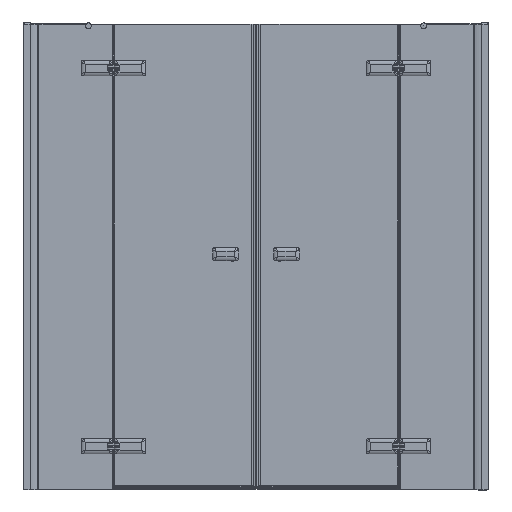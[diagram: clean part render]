
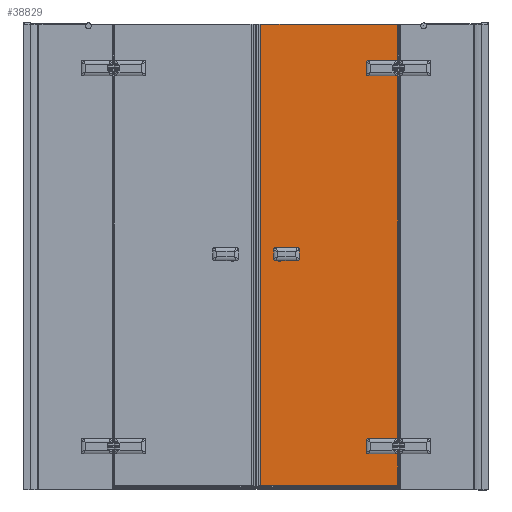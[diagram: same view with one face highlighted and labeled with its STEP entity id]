
A CAD part, front view. The second image highlights one B-rep face of the part: STEP entity #38829.
In plain terms, the highlighted planar face has unit normal (0, -1, 0).
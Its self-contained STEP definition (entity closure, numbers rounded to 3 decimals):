
#1372=PLANE($,#42161);
#1800=FACE_BOUND($,#12807,.T.);
#1801=FACE_BOUND($,#12808,.T.);
#2912=LINE($,#86467,#6034);
#2916=LINE($,#86479,#6038);
#2920=LINE($,#86490,#6042);
#3612=LINE($,#89770,#6734);
#3616=LINE($,#89782,#6738);
#3620=LINE($,#89793,#6742);
#4763=LINE($,#95279,#7885);
#4778=LINE($,#95324,#7900);
#4779=LINE($,#95326,#7901);
#4780=LINE($,#95328,#7902);
#4781=LINE($,#95330,#7903);
#4782=LINE($,#95331,#7904);
#6034=VECTOR($,#45944,96.);
#6038=VECTOR($,#45956,42.);
#6042=VECTOR($,#45968,96.);
#6734=VECTOR($,#47948,96.);
#6738=VECTOR($,#47960,42.);
#6742=VECTOR($,#47972,96.);
#7885=VECTOR($,#51323,127.43);
#7900=VECTOR($,#51380,1254.861);
#7901=VECTOR($,#51381,476.747);
#7902=VECTOR($,#51382,1585.4);
#7903=VECTOR($,#51383,476.747);
#7904=VECTOR($,#51384,112.83);
#10500=FACE_OUTER_BOUND($,#12806,.T.);
#12806=EDGE_LOOP($,(#33280,#33281,#33282,#33283,#33284,#33285,#33286,#33287,
#33288,#33289,#33290,#33291,#33292,#33293,#33294,#33295,#33296,#33297,#33298,
#33299));
#12807=EDGE_LOOP($,(#33300));
#12808=EDGE_LOOP($,(#33301));
#14379=CIRCLE($,#40298,5.);
#14382=CIRCLE($,#40302,5.);
#14419=CIRCLE($,#40378,5.);
#14421=CIRCLE($,#40382,5.);
#14631=CIRCLE($,#40952,5.);
#14634=CIRCLE($,#40956,5.);
#14670=CIRCLE($,#41030,5.);
#14672=CIRCLE($,#41034,5.);
#15104=CIRCLE($,#42162,5.5);
#15105=CIRCLE($,#42163,5.5);
#16507=VERTEX_POINT($,#86121);
#16508=VERTEX_POINT($,#86130);
#16511=VERTEX_POINT($,#86137);
#16514=VERTEX_POINT($,#86150);
#16627=VERTEX_POINT($,#86466);
#16629=VERTEX_POINT($,#86472);
#16631=VERTEX_POINT($,#86478);
#16633=VERTEX_POINT($,#86484);
#17187=VERTEX_POINT($,#89436);
#17188=VERTEX_POINT($,#89445);
#17191=VERTEX_POINT($,#89452);
#17194=VERTEX_POINT($,#89465);
#17302=VERTEX_POINT($,#89769);
#17304=VERTEX_POINT($,#89775);
#17306=VERTEX_POINT($,#89781);
#17308=VERTEX_POINT($,#89787);
#18423=VERTEX_POINT($,#95277);
#18433=VERTEX_POINT($,#95325);
#18434=VERTEX_POINT($,#95327);
#18435=VERTEX_POINT($,#95329);
#18436=VERTEX_POINT($,#95332);
#18437=VERTEX_POINT($,#95334);
#20505=EDGE_CURVE($,#16508,#16507,#14379,.T.);
#20512=EDGE_CURVE($,#16511,#16514,#14382,.T.);
#20668=EDGE_CURVE($,#16514,#16627,#2912,.T.);
#20671=EDGE_CURVE($,#16627,#16629,#14419,.T.);
#20674=EDGE_CURVE($,#16629,#16631,#2916,.T.);
#20677=EDGE_CURVE($,#16631,#16633,#14421,.T.);
#20680=EDGE_CURVE($,#16633,#16508,#2920,.T.);
#21578=EDGE_CURVE($,#17188,#17187,#14631,.T.);
#21585=EDGE_CURVE($,#17191,#17194,#14634,.T.);
#21735=EDGE_CURVE($,#17194,#17302,#3612,.T.);
#21738=EDGE_CURVE($,#17302,#17304,#14670,.T.);
#21741=EDGE_CURVE($,#17304,#17306,#3616,.T.);
#21744=EDGE_CURVE($,#17306,#17308,#14672,.T.);
#21747=EDGE_CURVE($,#17308,#17188,#3620,.T.);
#23510=EDGE_CURVE($,#17187,#18423,#4763,.T.);
#23533=EDGE_CURVE($,#16507,#17191,#4778,.T.);
#23534=EDGE_CURVE($,#18433,#18423,#4779,.T.);
#23535=EDGE_CURVE($,#18434,#18433,#4780,.T.);
#23536=EDGE_CURVE($,#18434,#18435,#4781,.T.);
#23537=EDGE_CURVE($,#18435,#16511,#4782,.T.);
#23538=EDGE_CURVE($,#18436,#18436,#15104,.T.);
#23539=EDGE_CURVE($,#18437,#18437,#15105,.T.);
#33280=ORIENTED_EDGE($,*,*,#20505,.T.);
#33281=ORIENTED_EDGE($,*,*,#23533,.T.);
#33282=ORIENTED_EDGE($,*,*,#21585,.T.);
#33283=ORIENTED_EDGE($,*,*,#21735,.T.);
#33284=ORIENTED_EDGE($,*,*,#21738,.T.);
#33285=ORIENTED_EDGE($,*,*,#21741,.T.);
#33286=ORIENTED_EDGE($,*,*,#21744,.T.);
#33287=ORIENTED_EDGE($,*,*,#21747,.T.);
#33288=ORIENTED_EDGE($,*,*,#21578,.T.);
#33289=ORIENTED_EDGE($,*,*,#23510,.T.);
#33290=ORIENTED_EDGE($,*,*,#23534,.F.);
#33291=ORIENTED_EDGE($,*,*,#23535,.F.);
#33292=ORIENTED_EDGE($,*,*,#23536,.T.);
#33293=ORIENTED_EDGE($,*,*,#23537,.T.);
#33294=ORIENTED_EDGE($,*,*,#20512,.T.);
#33295=ORIENTED_EDGE($,*,*,#20668,.T.);
#33296=ORIENTED_EDGE($,*,*,#20671,.T.);
#33297=ORIENTED_EDGE($,*,*,#20674,.T.);
#33298=ORIENTED_EDGE($,*,*,#20677,.T.);
#33299=ORIENTED_EDGE($,*,*,#20680,.T.);
#33300=ORIENTED_EDGE($,*,*,#23538,.T.);
#33301=ORIENTED_EDGE($,*,*,#23539,.T.);
#38829=ADVANCED_FACE($,(#10500,#1800,#1801),#1372,.T.);
#40298=AXIS2_PLACEMENT_3D($,#86131,#45668,#45669);
#40302=AXIS2_PLACEMENT_3D($,#86152,#45679,#45680);
#40378=AXIS2_PLACEMENT_3D($,#86473,#45949,#45950);
#40382=AXIS2_PLACEMENT_3D($,#86485,#45961,#45962);
#40952=AXIS2_PLACEMENT_3D($,#89446,#47681,#47682);
#40956=AXIS2_PLACEMENT_3D($,#89467,#47692,#47693);
#41030=AXIS2_PLACEMENT_3D($,#89776,#47953,#47954);
#41034=AXIS2_PLACEMENT_3D($,#89788,#47965,#47966);
#42161=AXIS2_PLACEMENT_3D($,#95323,#51378,#51379);
#42162=AXIS2_PLACEMENT_3D($,#95333,#51385,#51386);
#42163=AXIS2_PLACEMENT_3D($,#95335,#51387,#51388);
#45668=DIRECTION('center_axis',(0.,1.,0.));
#45669=DIRECTION('ref_axis',(-1.,0.,0.));
#45679=DIRECTION('center_axis',(0.,1.,0.));
#45680=DIRECTION('ref_axis',(0.,0.,
1.));
#45944=DIRECTION($,(-1.,0.,0.));
#45949=DIRECTION('center_axis',(0.,1.,0.));
#45950=DIRECTION('ref_axis',(1.,0.,0.));
#45956=DIRECTION($,(0.,0.,1.));
#45961=DIRECTION('center_axis',(0.,1.,0.));
#45962=DIRECTION('ref_axis',(0.,0.,
-1.));
#45968=DIRECTION($,(1.,0.,0.));
#47681=DIRECTION('center_axis',(0.,1.,0.));
#47682=DIRECTION('ref_axis',(-1.,0.,0.));
#47692=DIRECTION('center_axis',(0.,1.,0.));
#47693=DIRECTION('ref_axis',(0.,0.,
1.));
#47948=DIRECTION($,(-1.,0.,0.));
#47953=DIRECTION('center_axis',(0.,1.,0.));
#47954=DIRECTION('ref_axis',(1.,0.,0.));
#47960=DIRECTION($,(0.,0.,1.));
#47965=DIRECTION('center_axis',(0.,1.,0.));
#47966=DIRECTION('ref_axis',(0.,0.,
-1.));
#47972=DIRECTION($,(1.,0.,0.));
#51323=DIRECTION($,(0.,0.,1.));
#51378=DIRECTION('center_axis',(0.,-1.,0.));
#51379=DIRECTION('ref_axis',(1.,0.,0.));
#51380=DIRECTION($,(0.,0.,1.));
#51381=DIRECTION($,(1.,0.,0.));
#51382=DIRECTION($,(0.,0.,1.));
#51383=DIRECTION($,(1.,0.,0.));
#51384=DIRECTION($,(0.,0.,1.));
#51385=DIRECTION('center_axis',(0.,1.,0.));
#51386=DIRECTION('ref_axis',(1.,0.,0.));
#51387=DIRECTION('center_axis',(0.,1.,0.));
#51388=DIRECTION('ref_axis',(1.,0.,0.));
#86121=CARTESIAN_POINT('',(1586.099,65.956,198.514));
#86130=CARTESIAN_POINT('',(1581.352,65.956,201.944));
#86131=CARTESIAN_POINT('Origin',(1581.352,65.956,196.944));
#86137=CARTESIAN_POINT('',(1586.099,65.956,153.375));
#86150=CARTESIAN_POINT('',(1581.352,65.956,149.944));
#86152=CARTESIAN_POINT('Origin',(1581.352,65.956,154.944));
#86466=CARTESIAN_POINT('',(1485.352,65.956,149.944));
#86467=CARTESIAN_POINT($,(1297.352,65.956,149.944));
#86472=CARTESIAN_POINT('',(1480.352,65.956,154.944));
#86473=CARTESIAN_POINT('Origin',(1485.352,65.956,154.944));
#86478=CARTESIAN_POINT('',(1480.352,65.956,196.944));
#86479=CARTESIAN_POINT($,(1480.352,65.956,116.444));
#86484=CARTESIAN_POINT('',(1485.352,65.956,201.944));
#86485=CARTESIAN_POINT('Origin',(1485.352,65.956,196.944));
#86490=CARTESIAN_POINT($,(1345.352,65.956,201.944));
#89436=CARTESIAN_POINT('',(1586.099,65.956,1498.514));
#89445=CARTESIAN_POINT('',(1581.352,65.956,1501.944));
#89446=CARTESIAN_POINT('Origin',(1581.352,65.956,1496.944));
#89452=CARTESIAN_POINT('',(1586.099,65.956,1453.375));
#89465=CARTESIAN_POINT('',(1581.352,65.956,1449.944));
#89467=CARTESIAN_POINT('Origin',(1581.352,65.956,1454.944));
#89769=CARTESIAN_POINT('',(1485.352,65.956,1449.944));
#89770=CARTESIAN_POINT($,(1297.352,65.956,1449.944));
#89775=CARTESIAN_POINT('',(1480.352,65.956,1454.944));
#89776=CARTESIAN_POINT('Origin',(1485.352,65.956,1454.944));
#89781=CARTESIAN_POINT('',(1480.352,65.956,1496.944));
#89782=CARTESIAN_POINT($,(1480.352,65.956,766.444));
#89787=CARTESIAN_POINT('',(1485.352,65.956,1501.944));
#89788=CARTESIAN_POINT('Origin',(1485.352,65.956,1496.944));
#89793=CARTESIAN_POINT($,(1345.352,65.956,1501.944));
#95277=CARTESIAN_POINT('',(1586.099,65.956,1625.944));
#95279=CARTESIAN_POINT($,(1586.099,65.956,1485.944));
#95323=CARTESIAN_POINT('Origin',(1109.352,65.956,35.944));
#95324=CARTESIAN_POINT($,(1586.099,65.956,187.944));
#95325=CARTESIAN_POINT('',(1109.352,65.956,1625.944));
#95326=CARTESIAN_POINT($,(1109.352,65.956,1625.944));
#95327=CARTESIAN_POINT('',(1109.352,65.956,40.544));
#95328=CARTESIAN_POINT($,(1109.352,65.956,35.944));
#95329=CARTESIAN_POINT('',(1586.099,65.956,40.544));
#95330=CARTESIAN_POINT($,(1099.352,65.956,40.544));
#95331=CARTESIAN_POINT($,(1586.099,65.956,165.944));
#95332=CARTESIAN_POINT('',(1173.852,65.956,816.944));
#95333=CARTESIAN_POINT('Origin',(1179.352,65.956,816.944));
#95334=CARTESIAN_POINT('',(1173.852,65.956,844.944));
#95335=CARTESIAN_POINT('Origin',(1179.352,65.956,844.944));
